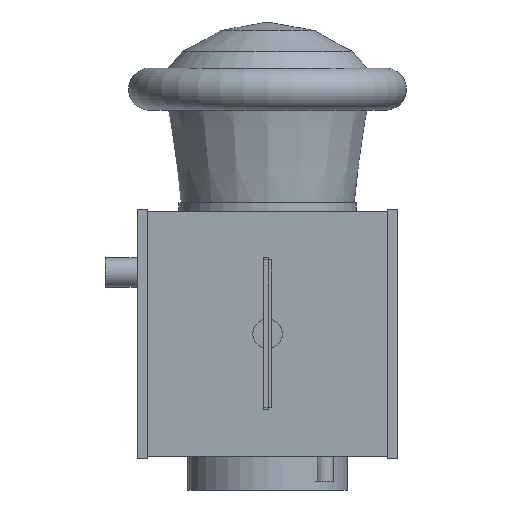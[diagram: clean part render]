
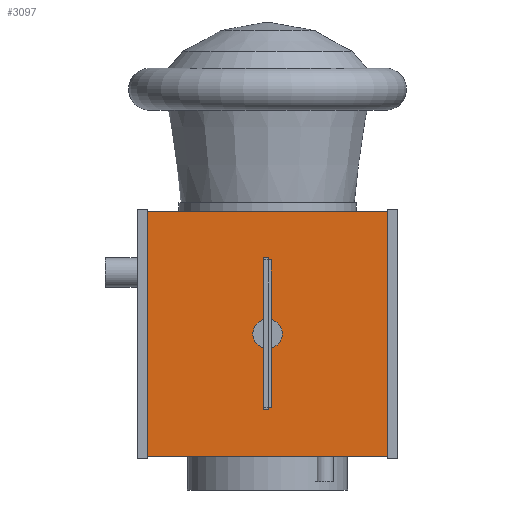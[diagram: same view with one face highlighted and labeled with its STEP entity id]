
A CAD part, left-side view. The second image highlights one B-rep face of the part: STEP entity #3097.
In plain terms, the highlighted planar face has unit normal (-1, 0, 0).
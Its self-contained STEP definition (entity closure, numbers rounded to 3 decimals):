
#3097 = ADVANCED_FACE('',(#3098),#3112,.F.);
#3098 = FACE_BOUND('',#3099,.F.);
#3099 = EDGE_LOOP('',(#3100,#3135,#3163,#3191));
#3100 = ORIENTED_EDGE('',*,*,#3101,.F.);
#3101 = EDGE_CURVE('',#3102,#3104,#3106,.T.);
#3102 = VERTEX_POINT('',#3103);
#3103 = CARTESIAN_POINT('',(-0.296,-0.296,-0.583));
#3104 = VERTEX_POINT('',#3105);
#3105 = CARTESIAN_POINT('',(-0.296,-0.296,0.));
#3106 = SURFACE_CURVE('',#3107,(#3111,#3123),.PCURVE_S1.);
#3107 = LINE('',#3108,#3109);
#3108 = CARTESIAN_POINT('',(-0.296,-0.296,-0.583));
#3109 = VECTOR('',#3110,1.);
#3110 = DIRECTION('',(0.,0.,1.));
#3111 = PCURVE('',#3112,#3117);
#3112 = PLANE('',#3113);
#3113 = AXIS2_PLACEMENT_3D('',#3114,#3115,#3116);
#3114 = CARTESIAN_POINT('',(-0.296,-0.296,-0.583));
#3115 = DIRECTION('',(1.,0.,0.));
#3116 = DIRECTION('',(0.,0.,1.));
#3117 = DEFINITIONAL_REPRESENTATION('',(#3118),#3122);
#3118 = LINE('',#3119,#3120);
#3119 = CARTESIAN_POINT('',(0.,0.));
#3120 = VECTOR('',#3121,1.);
#3121 = DIRECTION('',(1.,0.));
#3122 = ( GEOMETRIC_REPRESENTATION_CONTEXT(2) 
PARAMETRIC_REPRESENTATION_CONTEXT() REPRESENTATION_CONTEXT('2D SPACE',''
  ) );
#3123 = PCURVE('',#3124,#3129);
#3124 = PLANE('',#3125);
#3125 = AXIS2_PLACEMENT_3D('',#3126,#3127,#3128);
#3126 = CARTESIAN_POINT('',(-0.296,-0.296,-0.583));
#3127 = DIRECTION('',(0.,1.,0.));
#3128 = DIRECTION('',(0.,0.,1.));
#3129 = DEFINITIONAL_REPRESENTATION('',(#3130),#3134);
#3130 = LINE('',#3131,#3132);
#3131 = CARTESIAN_POINT('',(0.,0.));
#3132 = VECTOR('',#3133,1.);
#3133 = DIRECTION('',(1.,0.));
#3134 = ( GEOMETRIC_REPRESENTATION_CONTEXT(2) 
PARAMETRIC_REPRESENTATION_CONTEXT() REPRESENTATION_CONTEXT('2D SPACE',''
  ) );
#3135 = ORIENTED_EDGE('',*,*,#3136,.T.);
#3136 = EDGE_CURVE('',#3102,#3137,#3139,.T.);
#3137 = VERTEX_POINT('',#3138);
#3138 = CARTESIAN_POINT('',(-0.296,0.296,-0.583));
#3139 = SURFACE_CURVE('',#3140,(#3144,#3151),.PCURVE_S1.);
#3140 = LINE('',#3141,#3142);
#3141 = CARTESIAN_POINT('',(-0.296,-0.296,-0.583));
#3142 = VECTOR('',#3143,1.);
#3143 = DIRECTION('',(0.,1.,0.));
#3144 = PCURVE('',#3112,#3145);
#3145 = DEFINITIONAL_REPRESENTATION('',(#3146),#3150);
#3146 = LINE('',#3147,#3148);
#3147 = CARTESIAN_POINT('',(0.,0.));
#3148 = VECTOR('',#3149,1.);
#3149 = DIRECTION('',(0.,-1.));
#3150 = ( GEOMETRIC_REPRESENTATION_CONTEXT(2) 
PARAMETRIC_REPRESENTATION_CONTEXT() REPRESENTATION_CONTEXT('2D SPACE',''
  ) );
#3151 = PCURVE('',#3152,#3157);
#3152 = PLANE('',#3153);
#3153 = AXIS2_PLACEMENT_3D('',#3154,#3155,#3156);
#3154 = CARTESIAN_POINT('',(-0.296,-0.296,-0.583));
#3155 = DIRECTION('',(0.,0.,1.));
#3156 = DIRECTION('',(1.,0.,0.));
#3157 = DEFINITIONAL_REPRESENTATION('',(#3158),#3162);
#3158 = LINE('',#3159,#3160);
#3159 = CARTESIAN_POINT('',(0.,0.));
#3160 = VECTOR('',#3161,1.);
#3161 = DIRECTION('',(0.,1.));
#3162 = ( GEOMETRIC_REPRESENTATION_CONTEXT(2) 
PARAMETRIC_REPRESENTATION_CONTEXT() REPRESENTATION_CONTEXT('2D SPACE',''
  ) );
#3163 = ORIENTED_EDGE('',*,*,#3164,.T.);
#3164 = EDGE_CURVE('',#3137,#3165,#3167,.T.);
#3165 = VERTEX_POINT('',#3166);
#3166 = CARTESIAN_POINT('',(-0.296,0.296,0.));
#3167 = SURFACE_CURVE('',#3168,(#3172,#3179),.PCURVE_S1.);
#3168 = LINE('',#3169,#3170);
#3169 = CARTESIAN_POINT('',(-0.296,0.296,-0.583));
#3170 = VECTOR('',#3171,1.);
#3171 = DIRECTION('',(0.,0.,1.));
#3172 = PCURVE('',#3112,#3173);
#3173 = DEFINITIONAL_REPRESENTATION('',(#3174),#3178);
#3174 = LINE('',#3175,#3176);
#3175 = CARTESIAN_POINT('',(0.,-0.591));
#3176 = VECTOR('',#3177,1.);
#3177 = DIRECTION('',(1.,0.));
#3178 = ( GEOMETRIC_REPRESENTATION_CONTEXT(2) 
PARAMETRIC_REPRESENTATION_CONTEXT() REPRESENTATION_CONTEXT('2D SPACE',''
  ) );
#3179 = PCURVE('',#3180,#3185);
#3180 = PLANE('',#3181);
#3181 = AXIS2_PLACEMENT_3D('',#3182,#3183,#3184);
#3182 = CARTESIAN_POINT('',(-0.296,0.296,-0.583));
#3183 = DIRECTION('',(0.,1.,0.));
#3184 = DIRECTION('',(0.,0.,1.));
#3185 = DEFINITIONAL_REPRESENTATION('',(#3186),#3190);
#3186 = LINE('',#3187,#3188);
#3187 = CARTESIAN_POINT('',(0.,0.));
#3188 = VECTOR('',#3189,1.);
#3189 = DIRECTION('',(1.,0.));
#3190 = ( GEOMETRIC_REPRESENTATION_CONTEXT(2) 
PARAMETRIC_REPRESENTATION_CONTEXT() REPRESENTATION_CONTEXT('2D SPACE',''
  ) );
#3191 = ORIENTED_EDGE('',*,*,#3192,.F.);
#3192 = EDGE_CURVE('',#3104,#3165,#3193,.T.);
#3193 = SURFACE_CURVE('',#3194,(#3198,#3205),.PCURVE_S1.);
#3194 = LINE('',#3195,#3196);
#3195 = CARTESIAN_POINT('',(-0.296,-0.296,0.));
#3196 = VECTOR('',#3197,1.);
#3197 = DIRECTION('',(0.,1.,0.));
#3198 = PCURVE('',#3112,#3199);
#3199 = DEFINITIONAL_REPRESENTATION('',(#3200),#3204);
#3200 = LINE('',#3201,#3202);
#3201 = CARTESIAN_POINT('',(0.583,0.));
#3202 = VECTOR('',#3203,1.);
#3203 = DIRECTION('',(0.,-1.));
#3204 = ( GEOMETRIC_REPRESENTATION_CONTEXT(2) 
PARAMETRIC_REPRESENTATION_CONTEXT() REPRESENTATION_CONTEXT('2D SPACE',''
  ) );
#3205 = PCURVE('',#3206,#3211);
#3206 = PLANE('',#3207);
#3207 = AXIS2_PLACEMENT_3D('',#3208,#3209,#3210);
#3208 = CARTESIAN_POINT('',(-0.296,-0.296,0.));
#3209 = DIRECTION('',(0.,0.,1.));
#3210 = DIRECTION('',(1.,0.,0.));
#3211 = DEFINITIONAL_REPRESENTATION('',(#3212),#3216);
#3212 = LINE('',#3213,#3214);
#3213 = CARTESIAN_POINT('',(0.,0.));
#3214 = VECTOR('',#3215,1.);
#3215 = DIRECTION('',(0.,1.));
#3216 = ( GEOMETRIC_REPRESENTATION_CONTEXT(2) 
PARAMETRIC_REPRESENTATION_CONTEXT() REPRESENTATION_CONTEXT('2D SPACE',''
  ) );
